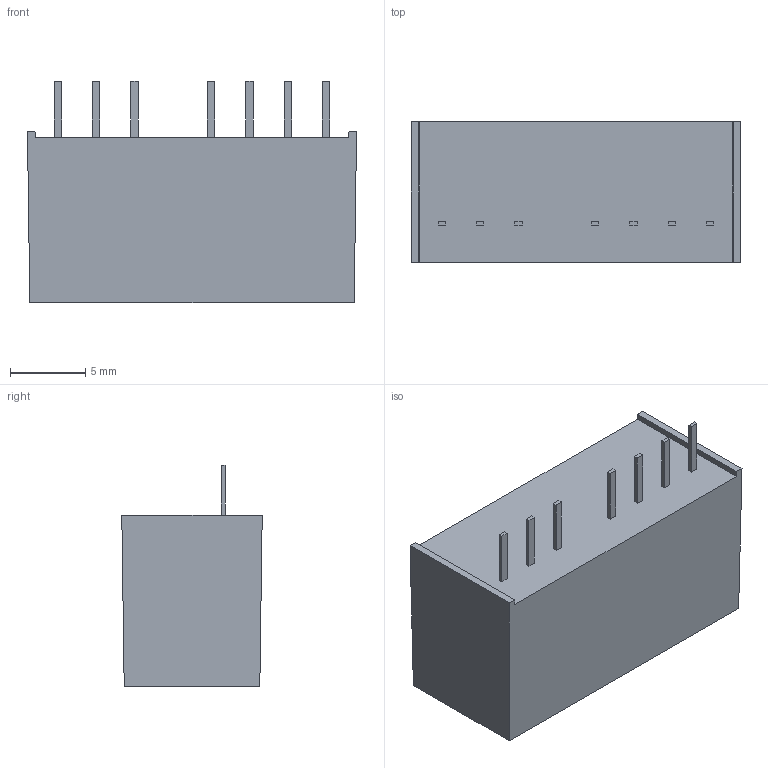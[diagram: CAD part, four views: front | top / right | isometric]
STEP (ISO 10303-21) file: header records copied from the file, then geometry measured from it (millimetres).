
FILE_DESCRIPTION (( 'STEP AP214' ), '1' );
FILE_NAME ('IEQ05.STEP', '2017-03-08T16:30:10', ( '' ), ( '' ), 'SwSTEP 2.0', 'SolidWorks 2016', '' );
FILE_SCHEMA (( 'AUTOMOTIVE_DESIGN' ));
Length unit declared in the file: inch
Products named in the file (1): IEQ05
Bounding box: 21.8 x 9.3 x 14.65 mm (x, y, z)
Volume: 2171.5 mm3; surface area: 1123.9 mm2
Topology: 1 solids, 1 shells, 45 faces, 108 edges, 72 vertices
Faces by surface type: plane 45
Entity records: 1322 total; most frequent: CARTESIAN_POINT 226, ORIENTED_EDGE 216, DIRECTION 200, LINE 108, EDGE_CURVE 108, VECTOR 108, VERTEX_POINT 72, EDGE_LOOP 52
